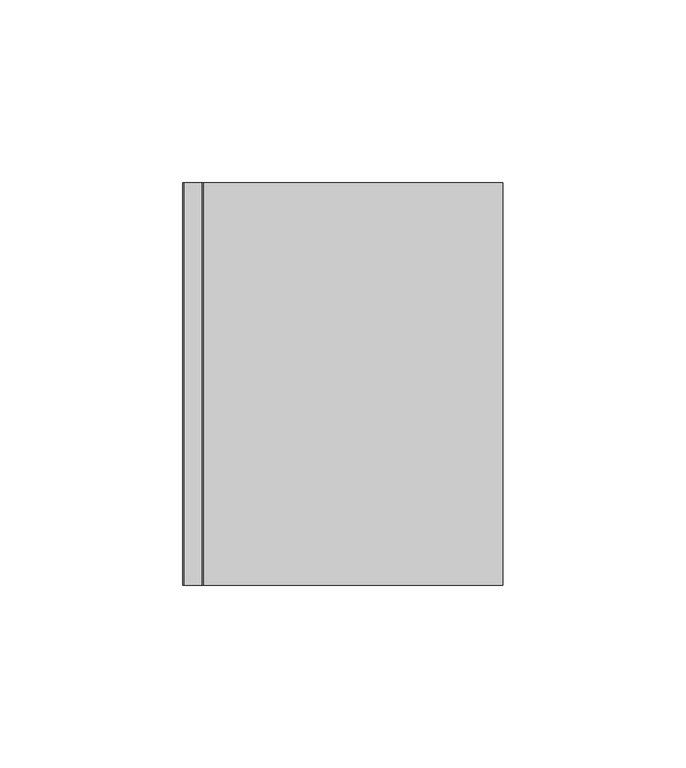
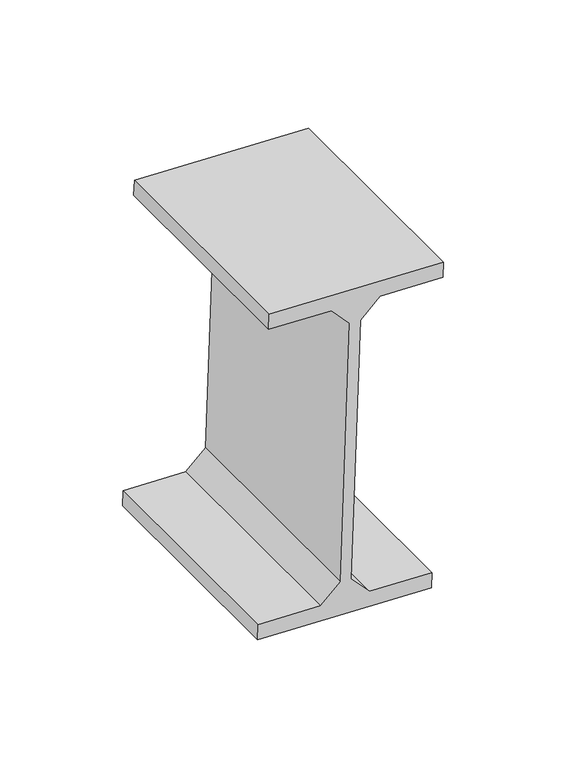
"""IFC4 building model written with IfcOpenShell, lengths in millimetres: beam geometry, Panne 10133 : Panne 10133."""

from ifc_helpers import new_model, si_unit, frame, origin, place, context, project, spatial, polyline, outline, extrude, source, transform, mapped, element, save


def beam_9fe14a1a(model_context):
    return source(origin(), model_context, "Body", "SweptSolid", [
        extrude(outline(polyline([(7540.9489596, 9504.3734388), (7538.0807159, 9586.3232599), (7545.4761876, 9586.5821014), (7546.5080557, 9557.1001536), (7555.8173555, 9548.4204683), (7682.939517, 9552.8697439), (7691.6192024, 9562.1790437), (7690.5873342, 9591.6609916), (7697.9828058, 9591.9198331), (7700.8510496, 9509.970012), (7693.4555779, 9509.7111705), (7692.4237098, 9539.1931183), (7683.11441, 9547.8728036), (7555.9922484, 9543.423528), (7547.3125631, 9534.1142282), (7548.3444313, 9504.6322803), (7540.9489596, 9504.3734388)])), frame((0.0, -15.0, 0.0), z_axis=(0.0, 1.0, 0.0), x_axis=(0.0, 0.0, 1.0)), (0.0, 0.0, 1.0), 110.0),
    ])


if __name__ == "__main__":
    model = new_model("IFC4")
    model_context = context("Model", 3, world=origin())
    ifc_project = project(units=[si_unit("LENGTHUNIT", "METRE", prefix="MILLI")], contexts=[model_context])
    site = spatial("IfcSite", under=ifc_project)
    building = spatial("IfcBuilding", under=site)
    placement = place(None, origin())
    beam_shape = beam_9fe14a1a(model_context)
    element("IfcBeam", 1, ObjectType="Panne 10133 : Panne 10133", at=placement, inside=building, context=model_context, shape_type="MappedRepresentation", body=[
        mapped(beam_shape, transform((0.0, 0.0, 0.0), x_axis=(1.0, 0.0, 0.0), y_axis=(0.0, 1.0, 0.0), z_axis=(0.0, 0.0, 1.0))),
    ])
    save(model, "model.ifc")
